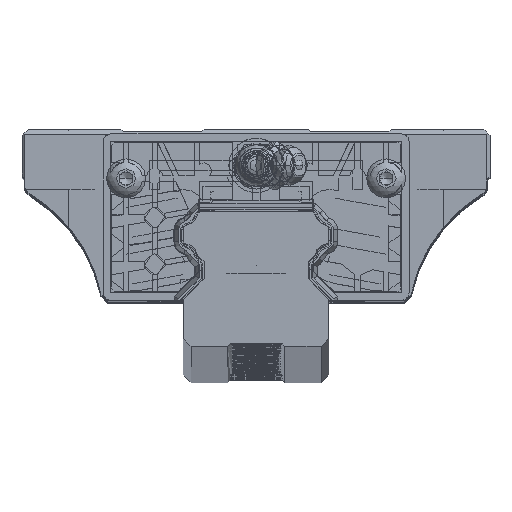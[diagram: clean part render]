
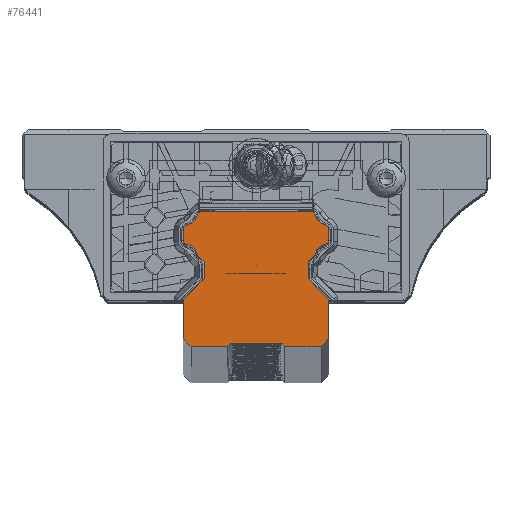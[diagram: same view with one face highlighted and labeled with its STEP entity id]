
A CAD part, top view. The second image highlights one B-rep face of the part: STEP entity #76441.
In plain terms, the highlighted planar face has unit normal (0, 0, 1).
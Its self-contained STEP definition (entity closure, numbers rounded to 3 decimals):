
#67071=DIRECTION('',(0.707,0.707,0.));
#67072=VECTOR('',#67071,0.707);
#67073=CARTESIAN_POINT('',(-5.5,-21.5,500.));
#67074=LINE('',#67073,#67072);
#67142=DIRECTION('',(-1.,0.,0.));
#67143=VECTOR('',#67142,21.4);
#67144=CARTESIAN_POINT('',(10.7,4.5,500.));
#67145=LINE('',#67144,#67143);
#67646=DIRECTION('',(-0.707,-0.707,0.));
#67647=VECTOR('',#67646,0.79);
#67648=CARTESIAN_POINT('',(-10.7,4.5,500.));
#67649=LINE('',#67648,#67647);
#68431=CARTESIAN_POINT('',(5.,-21.,500.));
#68433=DIRECTION('',(0.707,-0.707,0.));
#68434=VECTOR('',#68433,0.707);
#68435=CARTESIAN_POINT('',(5.,-21.,500.));
#68436=LINE('',#68435,#68434);
#70507=DIRECTION('',(1.,0.,0.));
#70508=VECTOR('',#70507,10.);
#70509=CARTESIAN_POINT('',(-5.,-21.,500.));
#70510=LINE('',#70509,#70508);
#70577=CARTESIAN_POINT('',(-14.086,-4.586,500.));
#70578=DIRECTION('',(0.,0.,1.));
#70579=DIRECTION('',(0.976,0.216,0.));
#70580=AXIS2_PLACEMENT_3D('',#70577,#70578,#70579);
#70582=CARTESIAN_POINT('',(-13.4,-1.154,500.));
#70583=DIRECTION('',(0.,0.,-1.));
#70584=DIRECTION('',(-0.196,-0.981,0.));
#70585=AXIS2_PLACEMENT_3D('',#70582,#70583,#70584);
#70587=DIRECTION('',(0.,1.,0.));
#70588=VECTOR('',#70587,2.308);
#70589=CARTESIAN_POINT('',(-14.,-1.154,500.));
#70590=LINE('',#70589,#70588);
#70591=CARTESIAN_POINT('',(-13.4,1.154,500.));
#70592=DIRECTION('',(0.,0.,-1.));
#70593=DIRECTION('',(-1.,0.,0.));
#70594=AXIS2_PLACEMENT_3D('',#70591,#70592,#70593);
#70596=CARTESIAN_POINT('',(-14.086,4.586,500.));
#70597=DIRECTION('',(0.,0.,1.));
#70598=DIRECTION('',(0.196,-0.981,0.));
#70599=AXIS2_PLACEMENT_3D('',#70596,#70597,#70598);
#70601=CARTESIAN_POINT('',(14.086,4.586,500.));
#70602=DIRECTION('',(0.,0.,1.));
#70603=DIRECTION('',(-0.975,-0.222,0.));
#70604=AXIS2_PLACEMENT_3D('',#70601,#70602,#70603);
#70606=CARTESIAN_POINT('',(13.4,1.154,500.));
#70607=DIRECTION('',(0.,0.,-1.));
#70608=DIRECTION('',(0.196,0.981,0.));
#70609=AXIS2_PLACEMENT_3D('',#70606,#70607,#70608);
#70611=DIRECTION('',(0.,-1.,0.));
#70612=VECTOR('',#70611,2.308);
#70613=CARTESIAN_POINT('',(14.,1.154,500.));
#70614=LINE('',#70613,#70612);
#70615=CARTESIAN_POINT('',(13.4,-1.154,500.));
#70616=DIRECTION('',(0.,0.,-1.));
#70617=DIRECTION('',(1.,0.,0.));
#70618=AXIS2_PLACEMENT_3D('',#70615,#70616,#70617);
#70620=CARTESIAN_POINT('',(14.086,-4.586,500.));
#70621=DIRECTION('',(0.,0.,1.));
#70622=DIRECTION('',(-0.196,0.981,0.));
#70623=AXIS2_PLACEMENT_3D('',#70620,#70621,#70622);
#70625=DIRECTION('',(-0.707,-0.707,0.));
#70626=VECTOR('',#70625,1.774);
#70627=CARTESIAN_POINT('',(11.254,-3.961,500.));
#70628=LINE('',#70627,#70626);
#70629=DIRECTION('',(0.,-1.,0.));
#70630=VECTOR('',#70629,3.285);
#70631=CARTESIAN_POINT('',(10.,-5.215,500.));
#70632=LINE('',#70631,#70630);
#70633=DIRECTION('',(0.707,-0.707,0.));
#70634=VECTOR('',#70633,5.657);
#70635=CARTESIAN_POINT('',(10.,-8.5,500.));
#70636=LINE('',#70635,#70634);
#70637=DIRECTION('',(0.,-1.,0.));
#70638=VECTOR('',#70637,7.5);
#70639=CARTESIAN_POINT('',(14.,-12.5,500.));
#70640=LINE('',#70639,#70638);
#70641=DIRECTION('',(-0.707,-0.707,0.));
#70642=VECTOR('',#70641,2.121);
#70643=CARTESIAN_POINT('',(14.,-20.,500.));
#70644=LINE('',#70643,#70642);
#70645=DIRECTION('',(-1.,0.,0.));
#70646=VECTOR('',#70645,7.);
#70647=CARTESIAN_POINT('',(12.5,-21.5,500.));
#70648=LINE('',#70647,#70646);
#70649=DIRECTION('',(-1.,0.,0.));
#70650=VECTOR('',#70649,7.);
#70651=CARTESIAN_POINT('',(-5.5,-21.5,500.));
#70652=LINE('',#70651,#70650);
#70653=DIRECTION('',(-0.707,0.707,0.));
#70654=VECTOR('',#70653,2.121);
#70655=CARTESIAN_POINT('',(-12.5,-21.5,500.));
#70656=LINE('',#70655,#70654);
#70657=DIRECTION('',(0.,1.,0.));
#70658=VECTOR('',#70657,7.5);
#70659=CARTESIAN_POINT('',(-14.,-20.,500.));
#70660=LINE('',#70659,#70658);
#70661=DIRECTION('',(0.707,0.707,0.));
#70662=VECTOR('',#70661,5.657);
#70663=CARTESIAN_POINT('',(-14.,-12.5,500.));
#70664=LINE('',#70663,#70662);
#70665=DIRECTION('',(0.,1.,0.));
#70666=VECTOR('',#70665,3.285);
#70667=CARTESIAN_POINT('',(-10.,-8.5,500.));
#70668=LINE('',#70667,#70666);
#70669=DIRECTION('',(-0.707,0.707,0.));
#70670=VECTOR('',#70669,1.774);
#70671=CARTESIAN_POINT('',(-10.,-5.215,500.));
#70672=LINE('',#70671,#70670);
#70673=DIRECTION('',(-0.707,0.707,0.));
#70674=VECTOR('',#70673,0.79);
#70675=CARTESIAN_POINT('',(11.259,3.941,500.));
#70676=LINE('',#70675,#70674);
#71041=CARTESIAN_POINT('',(-11.254,-3.961,500.));
#71043=VERTEX_POINT('',#71041);
#71047=CARTESIAN_POINT('',(-13.518,-1.742,500.));
#71048=VERTEX_POINT('',#71047);
#71050=CARTESIAN_POINT('',(-10.,-5.215,500.));
#71052=VERTEX_POINT('',#71050);
#71054=CARTESIAN_POINT('',(-10.,-8.5,500.));
#71056=VERTEX_POINT('',#71054);
#71058=CARTESIAN_POINT('',(-14.,-12.5,500.));
#71060=VERTEX_POINT('',#71058);
#71062=CARTESIAN_POINT('',(-14.,-20.,500.));
#71064=VERTEX_POINT('',#71062);
#71066=CARTESIAN_POINT('',(-12.5,-21.5,500.));
#71068=VERTEX_POINT('',#71066);
#71070=CARTESIAN_POINT('',(-5.5,-21.5,500.));
#71072=VERTEX_POINT('',#71070);
#71090=CARTESIAN_POINT('',(-5.,-21.,500.));
#71091=VERTEX_POINT('',#71090);
#71210=VERTEX_POINT('',#68431);
#71247=CARTESIAN_POINT('',(-10.7,4.5,500.));
#71249=VERTEX_POINT('',#71247);
#71253=CARTESIAN_POINT('',(10.7,4.5,500.));
#71254=VERTEX_POINT('',#71253);
#71556=CARTESIAN_POINT('',(-11.259,3.941,500.));
#71558=VERTEX_POINT('',#71556);
#71560=CARTESIAN_POINT('',(-13.518,1.742,500.));
#71562=VERTEX_POINT('',#71560);
#71563=CARTESIAN_POINT('',(-14.,1.154,500.));
#71565=VERTEX_POINT('',#71563);
#71568=CARTESIAN_POINT('',(-14.,-1.154,500.));
#71570=VERTEX_POINT('',#71568);
#71595=CARTESIAN_POINT('',(5.5,-21.5,500.));
#71596=VERTEX_POINT('',#71595);
#71597=CARTESIAN_POINT('',(11.259,3.941,500.));
#71598=VERTEX_POINT('',#71597);
#71599=CARTESIAN_POINT('',(13.518,1.742,500.));
#71600=VERTEX_POINT('',#71599);
#71601=CARTESIAN_POINT('',(14.,1.154,500.));
#71602=VERTEX_POINT('',#71601);
#71603=CARTESIAN_POINT('',(14.,-1.154,500.));
#71604=VERTEX_POINT('',#71603);
#71605=CARTESIAN_POINT('',(13.518,-1.742,500.));
#71606=VERTEX_POINT('',#71605);
#71607=CARTESIAN_POINT('',(11.254,-3.961,500.));
#71608=VERTEX_POINT('',#71607);
#71609=CARTESIAN_POINT('',(10.,-5.215,500.));
#71610=VERTEX_POINT('',#71609);
#71611=CARTESIAN_POINT('',(10.,-8.5,500.));
#71612=VERTEX_POINT('',#71611);
#71613=CARTESIAN_POINT('',(14.,-12.5,500.));
#71614=VERTEX_POINT('',#71613);
#71615=CARTESIAN_POINT('',(14.,-20.,500.));
#71616=VERTEX_POINT('',#71615);
#71617=CARTESIAN_POINT('',(12.5,-21.5,500.));
#71618=VERTEX_POINT('',#71617);
#76394=CARTESIAN_POINT('',(0.,0.,500.));
#76395=DIRECTION('',(0.,0.,1.));
#76396=DIRECTION('',(1.,0.,0.));
#76397=AXIS2_PLACEMENT_3D('',#76394,#76395,#76396);
#76398=PLANE('',#76397);
#76399=ORIENTED_EDGE('',*,*,#71918,.T.);
#76400=ORIENTED_EDGE('',*,*,#72584,.T.);
#76401=ORIENTED_EDGE('',*,*,#72570,.T.);
#76402=ORIENTED_EDGE('',*,*,#72555,.T.);
#76403=ORIENTED_EDGE('',*,*,#72540,.T.);
#76404=ORIENTED_EDGE('',*,*,#72525,.F.);
#76405=ORIENTED_EDGE('',*,*,#72212,.F.);
#76407=ORIENTED_EDGE('',*,*,#76406,.F.);
#76409=ORIENTED_EDGE('',*,*,#76408,.T.);
#76411=ORIENTED_EDGE('',*,*,#76410,.T.);
#76413=ORIENTED_EDGE('',*,*,#76412,.T.);
#76415=ORIENTED_EDGE('',*,*,#76414,.T.);
#76417=ORIENTED_EDGE('',*,*,#76416,.T.);
#76419=ORIENTED_EDGE('',*,*,#76418,.T.);
#76421=ORIENTED_EDGE('',*,*,#76420,.T.);
#76423=ORIENTED_EDGE('',*,*,#76422,.T.);
#76425=ORIENTED_EDGE('',*,*,#76424,.T.);
#76427=ORIENTED_EDGE('',*,*,#76426,.T.);
#76429=ORIENTED_EDGE('',*,*,#76428,.T.);
#76430=ORIENTED_EDGE('',*,*,#73488,.F.);
#76431=ORIENTED_EDGE('',*,*,#76313,.F.);
#76432=ORIENTED_EDGE('',*,*,#72041,.F.);
#76433=ORIENTED_EDGE('',*,*,#72008,.T.);
#76434=ORIENTED_EDGE('',*,*,#71993,.T.);
#76435=ORIENTED_EDGE('',*,*,#71978,.T.);
#76436=ORIENTED_EDGE('',*,*,#71963,.T.);
#76437=ORIENTED_EDGE('',*,*,#71948,.T.);
#76438=ORIENTED_EDGE('',*,*,#71933,.T.);
#76439=EDGE_LOOP('',(#76399,#76400,#76401,#76402,#76403,#76404,#76405,#76407,
#76409,#76411,#76413,#76415,#76417,#76419,#76421,#76423,#76425,#76427,#76429,
#76430,#76431,#76432,#76433,#76434,#76435,#76436,#76437,#76438));
#76440=FACE_OUTER_BOUND('',#76439,.F.);
#76441=ADVANCED_FACE('',(#76440),#76398,.T.);
#70581=CIRCLE('',#70580,2.9);
#70586=CIRCLE('',#70585,0.6);
#70595=CIRCLE('',#70594,0.6);
#70600=CIRCLE('',#70599,2.9);
#70605=CIRCLE('',#70604,2.9);
#70610=CIRCLE('',#70609,0.6);
#70619=CIRCLE('',#70618,0.6);
#70624=CIRCLE('',#70623,2.9);
#71918=EDGE_CURVE('',#71043,#71048,#70581,.T.);
#71933=EDGE_CURVE('',#71052,#71043,#70672,.T.);
#71948=EDGE_CURVE('',#71056,#71052,#70668,.T.);
#71963=EDGE_CURVE('',#71060,#71056,#70664,.T.);
#71978=EDGE_CURVE('',#71064,#71060,#70660,.T.);
#71993=EDGE_CURVE('',#71068,#71064,#70656,.T.);
#72008=EDGE_CURVE('',#71072,#71068,#70652,.T.);
#72041=EDGE_CURVE('',#71072,#71091,#67074,.T.);
#72212=EDGE_CURVE('',#71254,#71249,#67145,.T.);
#72525=EDGE_CURVE('',#71249,#71558,#67649,.T.);
#72540=EDGE_CURVE('',#71562,#71558,#70600,.T.);
#72555=EDGE_CURVE('',#71565,#71562,#70595,.T.);
#72570=EDGE_CURVE('',#71570,#71565,#70590,.T.);
#72584=EDGE_CURVE('',#71048,#71570,#70586,.T.);
#73488=EDGE_CURVE('',#71210,#71596,#68436,.T.);
#76313=EDGE_CURVE('',#71091,#71210,#70510,.T.);
#76406=EDGE_CURVE('',#71598,#71254,#70676,.T.);
#76408=EDGE_CURVE('',#71598,#71600,#70605,.T.);
#76410=EDGE_CURVE('',#71600,#71602,#70610,.T.);
#76412=EDGE_CURVE('',#71602,#71604,#70614,.T.);
#76414=EDGE_CURVE('',#71604,#71606,#70619,.T.);
#76416=EDGE_CURVE('',#71606,#71608,#70624,.T.);
#76418=EDGE_CURVE('',#71608,#71610,#70628,.T.);
#76420=EDGE_CURVE('',#71610,#71612,#70632,.T.);
#76422=EDGE_CURVE('',#71612,#71614,#70636,.T.);
#76424=EDGE_CURVE('',#71614,#71616,#70640,.T.);
#76426=EDGE_CURVE('',#71616,#71618,#70644,.T.);
#76428=EDGE_CURVE('',#71618,#71596,#70648,.T.);
